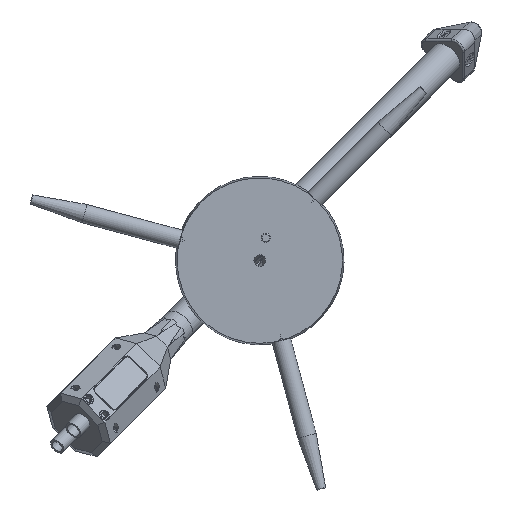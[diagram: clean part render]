
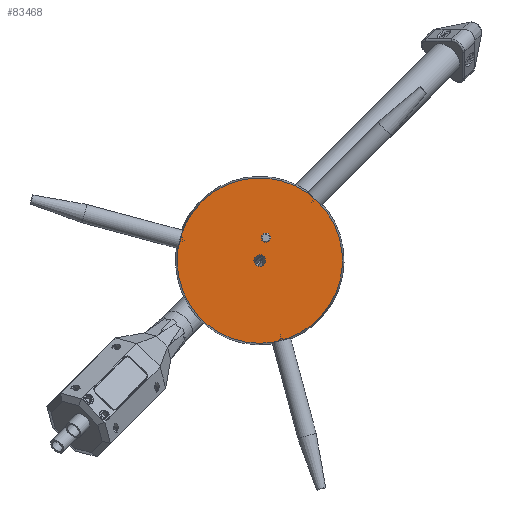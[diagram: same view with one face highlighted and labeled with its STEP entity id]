
A CAD part, front view. The second image highlights one B-rep face of the part: STEP entity #83468.
In plain terms, the highlighted planar face has unit normal (0, -1, 0) as drawn and (0, 0, 1) by its records, which use the part's own axes.
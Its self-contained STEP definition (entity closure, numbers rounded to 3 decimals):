
#1470=CIRCLE('',#3938,35.);
#1476=CIRCLE('',#3953,1.621);
#1478=CIRCLE('',#3956,2.489);
#3938=AXIS2_PLACEMENT_3D('',#137227,#24819,#24820);
#3953=AXIS2_PLACEMENT_3D('',#137468,#24846,#24847);
#3956=AXIS2_PLACEMENT_3D('',#137473,#24852,#24853);
#3960=AXIS2_PLACEMENT_3D('',#137478,#24859,$);
#5251=PLANE('',#3960);
#24819=DIRECTION('',(0.,0.,1.));
#24820=DIRECTION('',(35.,0.,0.));
#24846=DIRECTION('',(0.,0.,-1.));
#24847=DIRECTION('',(0.,1.621,0.));
#24852=DIRECTION('',(0.,0.,-1.));
#24853=DIRECTION('',(0.,2.489,0.));
#24859=DIRECTION('',(0.,0.,1.));
#32357=VERTEX_POINT('',#137228);
#32370=VERTEX_POINT('',#137469);
#32372=VERTEX_POINT('',#137474);
#48308=EDGE_CURVE('',#32357,#32357,#1470,.T.);
#48323=EDGE_CURVE('',#32370,#32370,#1476,.T.);
#48325=EDGE_CURVE('',#32372,#32372,#1478,.T.);
#70412=ORIENTED_EDGE('',*,*,#48308,.T.);
#70413=ORIENTED_EDGE('',*,*,#48323,.T.);
#70414=ORIENTED_EDGE('',*,*,#48325,.T.);
#75003=EDGE_LOOP('',(#70412));
#75004=EDGE_LOOP('',(#70413));
#75005=EDGE_LOOP('',(#70414));
#79381=FACE_BOUND('',#75003,.T.);
#79382=FACE_BOUND('',#75004,.T.);
#79383=FACE_BOUND('',#75005,.T.);
#83468=ADVANCED_FACE('',(#79381,#79382,#79383),#5251,.T.);
#137227=CARTESIAN_POINT('',(0.,0.,8.));
#137228=CARTESIAN_POINT('',(-17.5,-30.311,8.));
#137468=CARTESIAN_POINT('',(0.,-10.,8.));
#137469=CARTESIAN_POINT('',(0.,-8.379,8.));
#137473=CARTESIAN_POINT('',(0.,0.,8.));
#137474=CARTESIAN_POINT('',(0.,2.489,8.));
#137478=CARTESIAN_POINT('',(0.,0.,8.));
